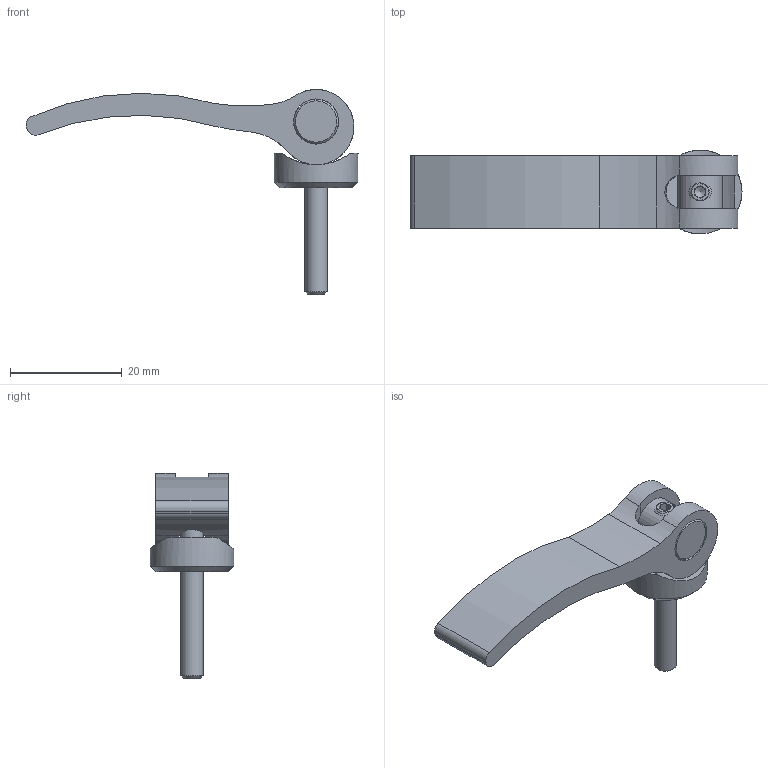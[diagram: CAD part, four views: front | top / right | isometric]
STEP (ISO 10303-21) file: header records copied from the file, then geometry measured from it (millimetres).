
FILE_DESCRIPTION(('STEP AP214'), '1');
FILE_NAME('À00360.11590415 _ Ýêñöåíòðèê 59 ìì', '', ('UNSPECIFIED'), ('UNSPECIFIED'), 'C3D Converter', 'C3D Toolkit', '');
FILE_SCHEMA(('AUTOMOTIVE_DESIGN { 1 0 10303 214 3 1 1}'));
Length unit declared in the file: millimetre
Products named in the file (5): А00360.59.03; А00360.59.02; А00360.59.01
Assembly tree (4 placements, depth 2):
  (unnamed)
    А00360.59.03
    А00360.59.02
    А00360.59.01
    (unnamed)
Bounding box: 59.48 x 15 x 36.75 mm (x, y, z)
Volume: 4890.2 mm3; surface area: 4024.5 mm2
Topology: 4 solids, 4 shells, 49 faces, 123 edges, 80 vertices
Faces by surface type: plane 24, cylinder 19, cone 6
Full cylindrical faces by diameter (mm): 3.242 x1, 4 x1, 5.5 x1, 8 x1, 8.1 x2, 15 x1
Entity records: 2552 total; most frequent: CARTESIAN_POINT 1037, DIRECTION 254, ORIENTED_EDGE 218, EDGE_CURVE 109, AXIS2_PLACEMENT_3D 105, VERTEX_POINT 79, EDGE_LOOP 68, FACE_BOUND 57
